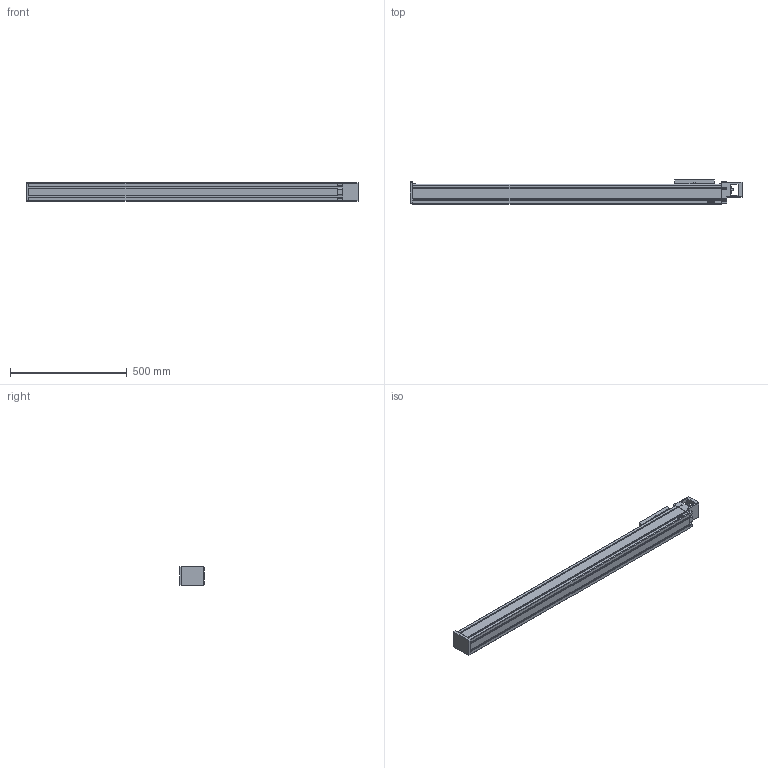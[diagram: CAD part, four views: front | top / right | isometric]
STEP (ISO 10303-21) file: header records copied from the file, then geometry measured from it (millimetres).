
FILE_DESCRIPTION(/* description */ (''),/* implementation_level */ '2;1');
FILE_NAME(/* name */ 'D:\混合母檔20191031\混和母檔\混和母檔\bin\Debug\Download\3D\KU80-10C-1100AF0\KU80-10C-1100AF0.stp',/* time_stamp */ '2019-11-04T17:13:09+08:00',/* author */ ('user'),/* organization */ (''),/* preprocessor_version */ 'ST-DEVELOPER v16.13',/* originating_system */ 'Autodesk Inventor 2018',/* authorisation */ '');
FILE_SCHEMA (('AUTOMOTIVE_DESIGN { 1 0 10303 214 3 1 1 }'));
Length unit declared in the file: millimetre
Products named in the file (3): KU80-10C-1100AF0; KU80-F0-BP; KU80-SL
Assembly tree (2 placements, depth 2):
  KU80-10C-1100AF0
    KU80-F0-BP
    KU80-SL
Bounding box: 1420 x 103 x 80 mm (x, y, z)
Volume: 8947476.2 mm3; surface area: 747753 mm2
Topology: 2 solids, 10 shells, 862 faces, 2315 edges, 1508 vertices
Faces by surface type: plane 509, bspline 136, cylinder 104, cone 81, torus 28, sphere 4
Full cylindrical faces by diameter (mm): 2.459 x4, 2.729 x4, 3 x4, 3.242 x4, 3.5 x4, 4.134 x16, 5 x4, 5.5 x8, 5.6 x2, 8 x1, 8.5 x4, 12 x1, 46.5 x1
Entity records: 27990 total; most frequent: CARTESIAN_POINT 7413, ORIENTED_EDGE 4362, DIRECTION 3790, EDGE_CURVE 2181, VERTEX_POINT 1469, LINE 1298, VECTOR 1298, AXIS2_PLACEMENT_3D 1246
